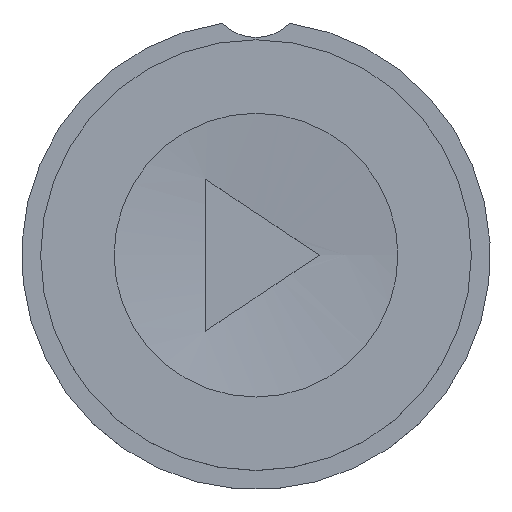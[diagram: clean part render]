
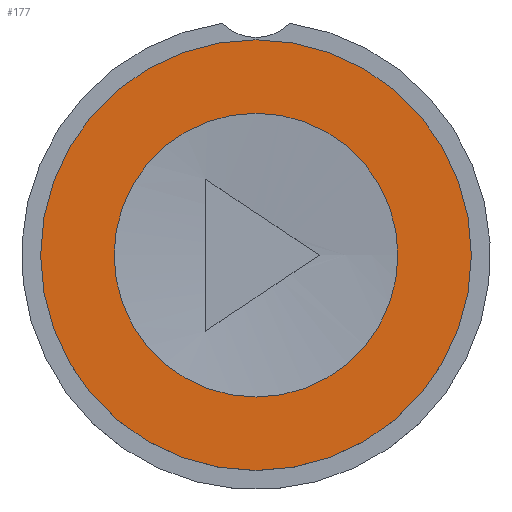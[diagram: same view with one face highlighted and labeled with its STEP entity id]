
A CAD part, top view. The second image highlights one B-rep face of the part: STEP entity #177.
In plain terms, the highlighted planar face has unit normal (0, 0, 1).
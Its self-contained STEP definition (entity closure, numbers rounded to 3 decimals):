
#24 = VERTEX_POINT('',#25);
#25 = CARTESIAN_POINT('',(17.,-38.,13.4));
#32 = CYLINDRICAL_SURFACE('',#33,17.);
#33 = AXIS2_PLACEMENT_3D('',#34,#35,#36);
#34 = CARTESIAN_POINT('',(0.,-38.,10.7));
#35 = DIRECTION('',(-0.,-0.,-1.));
#36 = DIRECTION('',(1.,0.,0.));
#51 = EDGE_CURVE('',#24,#24,#52,.T.);
#52 = SURFACE_CURVE('',#53,(#58,#65),.PCURVE_S1.);
#53 = CIRCLE('',#54,17.);
#54 = AXIS2_PLACEMENT_3D('',#55,#56,#57);
#55 = CARTESIAN_POINT('',(0.,-38.,13.4));
#56 = DIRECTION('',(0.,0.,1.));
#57 = DIRECTION('',(1.,0.,-0.));
#58 = PCURVE('',#32,#59);
#59 = DEFINITIONAL_REPRESENTATION('',(#60),#64);
#60 = LINE('',#61,#62);
#61 = CARTESIAN_POINT('',(6.283,-2.7));
#62 = VECTOR('',#63,1.);
#63 = DIRECTION('',(-1.,0.));
#64 = ( GEOMETRIC_REPRESENTATION_CONTEXT(2) 
PARAMETRIC_REPRESENTATION_CONTEXT() REPRESENTATION_CONTEXT('2D SPACE',''
  ) );
#65 = PCURVE('',#66,#71);
#66 = PLANE('',#67);
#67 = AXIS2_PLACEMENT_3D('',#68,#69,#70);
#68 = CARTESIAN_POINT('',(0.,-38.,13.4));
#69 = DIRECTION('',(0.,0.,1.));
#70 = DIRECTION('',(1.,0.,-0.));
#71 = DEFINITIONAL_REPRESENTATION('',(#72),#76);
#72 = CIRCLE('',#73,17.);
#73 = AXIS2_PLACEMENT_2D('',#74,#75);
#74 = CARTESIAN_POINT('',(0.,0.));
#75 = DIRECTION('',(1.,0.));
#76 = ( GEOMETRIC_REPRESENTATION_CONTEXT(2) 
PARAMETRIC_REPRESENTATION_CONTEXT() REPRESENTATION_CONTEXT('2D SPACE',''
  ) );
#177 = ADVANCED_FACE('',(#178,#181),#66,.T.);
#178 = FACE_BOUND('',#179,.T.);
#179 = EDGE_LOOP('',(#180));
#180 = ORIENTED_EDGE('',*,*,#51,.T.);
#181 = FACE_BOUND('',#182,.T.);
#182 = EDGE_LOOP('',(#183));
#183 = ORIENTED_EDGE('',*,*,#184,.F.);
#184 = EDGE_CURVE('',#185,#185,#187,.T.);
#185 = VERTEX_POINT('',#186);
#186 = CARTESIAN_POINT('',(11.203,-38.,13.4));
#187 = SURFACE_CURVE('',#188,(#193,#200),.PCURVE_S1.);
#188 = CIRCLE('',#189,11.203);
#189 = AXIS2_PLACEMENT_3D('',#190,#191,#192);
#190 = CARTESIAN_POINT('',(0.,-38.,13.4));
#191 = DIRECTION('',(0.,0.,1.));
#192 = DIRECTION('',(1.,0.,-0.));
#193 = PCURVE('',#66,#194);
#194 = DEFINITIONAL_REPRESENTATION('',(#195),#199);
#195 = CIRCLE('',#196,11.203);
#196 = AXIS2_PLACEMENT_2D('',#197,#198);
#197 = CARTESIAN_POINT('',(0.,0.));
#198 = DIRECTION('',(1.,0.));
#199 = ( GEOMETRIC_REPRESENTATION_CONTEXT(2) 
PARAMETRIC_REPRESENTATION_CONTEXT() REPRESENTATION_CONTEXT('2D SPACE',''
  ) );
#200 = PCURVE('',#201,#206);
#201 = SPHERICAL_SURFACE('',#202,90.);
#202 = AXIS2_PLACEMENT_3D('',#203,#204,#205);
#203 = CARTESIAN_POINT('',(0.,-38.,102.7));
#204 = DIRECTION('',(0.,0.,1.));
#205 = DIRECTION('',(1.,0.,-0.));
#206 = DEFINITIONAL_REPRESENTATION('',(#207),#211);
#207 = LINE('',#208,#209);
#208 = CARTESIAN_POINT('',(0.,-1.446));
#209 = VECTOR('',#210,1.);
#210 = DIRECTION('',(1.,0.));
#211 = ( GEOMETRIC_REPRESENTATION_CONTEXT(2) 
PARAMETRIC_REPRESENTATION_CONTEXT() REPRESENTATION_CONTEXT('2D SPACE',''
  ) );
